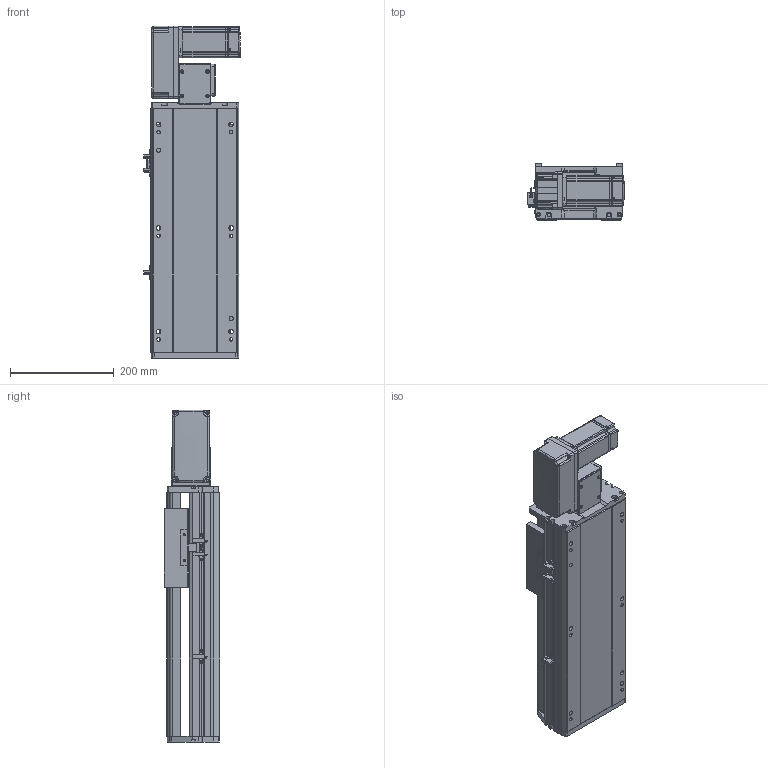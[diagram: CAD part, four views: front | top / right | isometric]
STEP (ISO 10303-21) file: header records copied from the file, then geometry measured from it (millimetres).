
FILE_DESCRIPTION (( 'STEP AP214' ), '1' );
FILE_NAME ('RTB17S-XX-200-L-M40-C4.STEP', '2025-12-11T03:47:31', ( '' ), ( '' ), 'SwSTEP 2.0', 'SolidWorks 2018', '' );
FILE_SCHEMA (( 'AUTOMOTIVE_DESIGN' ));
Length unit declared in the file: millimetre
Products named in the file (14): RMP17S-L-014-T20--々湍釱^RTB17S-L-々湍釱蚾饜-400W_RTB17S-XX-XX-L-M40-C4; RTH13-BL-012覜茼え俋离^RTB17S-XX-XX-L-M40-C4; RTB17S-L-007奻裔^RTB17S-XX-XX-L-M40-C4; RTB17S-L-004佪裝蹟譫蟀諉釱^RTB17S-XX-XX-L-M40-C4; RTB17-R-011菁釱^RTB17S-XX-XX-L-M40-C4; OMRON EE-SX672 传感器^RTB17S-XX-XX-L-M40-C4; RTB17S-XX-200-L-M40-C4; 400W侜督萇儂^RTB17S-XX-XX-L-M40-C4; RTB17S-L-001耜醱啣^RTB17S-XX-XX-L-M40-C4; RTB14-L-018P^RTB17S-L-々湍釱蚾饜-400W_RTB17S-XX-XX-L-M40-C4; RTB14-L-008-M20--萇儂啣^RTB17S-L-々湍釱蚾饜-400W_RTB17S-XX-XX-L-M40-C4; RTB14-L-005P--轴承塑胶压盖^RTB17S-L-皮带座装配-400W_RTB17S-XX-XX-L-M40-C4; RTB14-L-017P^RTB17S-L-々湍釱蚾饜-400W_RTB17S-XX-XX-L-M40-C4; RTB17S-L-々湍釱蚾饜-400W^RTB17S-XX-XX-L-M40-C4
Assembly tree (16 placements, depth 3):
  RTB17S-XX-200-L-M40-C4
    RTB17-R-011菁釱^RTB17S-XX-XX-L-M40-C4
    RTB17S-L-007奻裔^RTB17S-XX-XX-L-M40-C4
    OMRON EE-SX672 传感器^RTB17S-XX-XX-L-M40-C4  x3
    RTB17S-L-001耜醱啣^RTB17S-XX-XX-L-M40-C4
    400W侜督萇儂^RTB17S-XX-XX-L-M40-C4
    RTB17S-L-004佪裝蹟譫蟀諉釱^RTB17S-XX-XX-L-M40-C4
    RTH13-BL-012覜茼え俋离^RTB17S-XX-XX-L-M40-C4
    RTB17S-L-々湍釱蚾饜-400W^RTB17S-XX-XX-L-M40-C4
      RMP17S-L-014-T20--々湍釱^RTB17S-L-々湍釱蚾饜-400W_RTB17S-XX-XX-L-M40-C4
      RTB14-L-005P--轴承塑胶压盖^RTB17S-L-皮带座装配-400W_RTB17S-XX-XX-L-M40-C4
      RTB14-L-008-M20--萇儂啣^RTB17S-L-々湍釱蚾饜-400W_RTB17S-XX-XX-L-M40-C4
      RTB14-L-017P^RTB17S-L-々湍釱蚾饜-400W_RTB17S-XX-XX-L-M40-C4  x2
      RTB14-L-018P^RTB17S-L-々湍釱蚾饜-400W_RTB17S-XX-XX-L-M40-C4
Bounding box: 186 x 108 x 641 mm (x, y, z)
Volume: 5853064.3 mm3; surface area: 785732.4 mm2
Topology: 15 solids, 15 shells, 2141 faces, 5871 edges, 3825 vertices
Faces by surface type: plane 1060, cylinder 633, bspline 301, cone 139, torus 8
Entity records: 59561 total; most frequent: CARTESIAN_POINT 16476, ORIENTED_EDGE 8586, DIRECTION 8036, EDGE_CURVE 4293, VERTEX_POINT 2813, AXIS2_PLACEMENT_3D 2743, LINE 2550, VECTOR 2550
